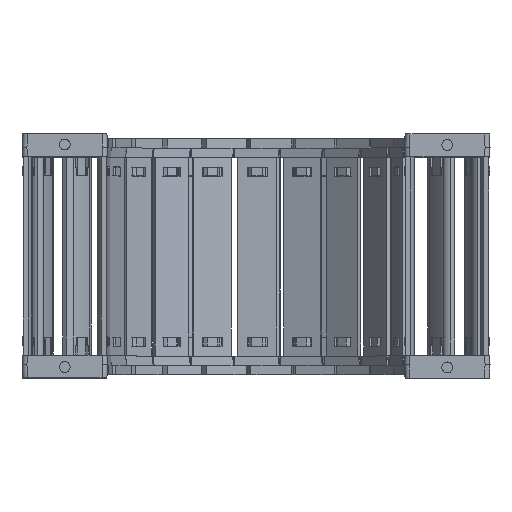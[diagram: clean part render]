
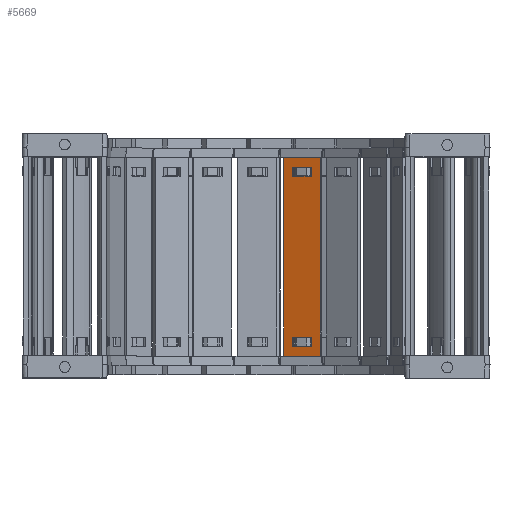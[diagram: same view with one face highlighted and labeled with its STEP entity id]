
A CAD part, top view. The second image highlights one B-rep face of the part: STEP entity #5669.
In plain terms, the highlighted planar face has unit normal (-0.342, 0, 0.94) as drawn and (0, 1, 0) by its records, which use the part's own axes.
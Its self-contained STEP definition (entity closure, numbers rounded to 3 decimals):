
#5089=DIRECTION('',(0.,0.,1.));
#5090=VECTOR('',#5089,15.8);
#5091=CARTESIAN_POINT('',(65.74,1.5,-7.9));
#5092=LINE('',#5091,#5090);
#5093=DIRECTION('',(-1.,0.,0.));
#5094=VECTOR('',#5093,80.5);
#5095=CARTESIAN_POINT('',(65.74,1.5,7.9));
#5096=LINE('',#5095,#5094);
#5097=DIRECTION('',(0.,0.,-1.));
#5098=VECTOR('',#5097,15.8);
#5099=CARTESIAN_POINT('',(-14.76,1.5,7.9));
#5100=LINE('',#5099,#5098);
#5101=DIRECTION('',(1.,0.,0.));
#5102=VECTOR('',#5101,3.648);
#5103=CARTESIAN_POINT('',(58.122,1.5,4.075));
#5104=LINE('',#5103,#5102);
#5105=DIRECTION('',(0.,0.,-1.));
#5106=VECTOR('',#5105,8.15);
#5107=CARTESIAN_POINT('',(61.77,1.5,4.075));
#5108=LINE('',#5107,#5106);
#5109=DIRECTION('',(-1.,0.,0.));
#5110=VECTOR('',#5109,3.648);
#5111=CARTESIAN_POINT('',(61.77,1.5,-4.075));
#5112=LINE('',#5111,#5110);
#5113=DIRECTION('',(0.,0.,-1.));
#5114=VECTOR('',#5113,8.15);
#5115=CARTESIAN_POINT('',(-7.142,1.5,4.075));
#5116=LINE('',#5115,#5114);
#5117=DIRECTION('',(-1.,0.,0.));
#5118=VECTOR('',#5117,3.648);
#5119=CARTESIAN_POINT('',(-7.142,1.5,-4.075));
#5120=LINE('',#5119,#5118);
#5121=DIRECTION('',(0.,0.,1.));
#5122=VECTOR('',#5121,8.15);
#5123=CARTESIAN_POINT('',(-10.79,1.5,-4.075));
#5124=LINE('',#5123,#5122);
#5125=DIRECTION('',(1.,0.,0.));
#5126=VECTOR('',#5125,3.648);
#5127=CARTESIAN_POINT('',(-10.79,1.5,4.075));
#5128=LINE('',#5127,#5126);
#5133=DIRECTION('',(-1.,0.,0.));
#5134=VECTOR('',#5133,80.5);
#5135=CARTESIAN_POINT('',(65.74,1.5,-7.9));
#5136=LINE('',#5135,#5134);
#5254=DIRECTION('',(0.,0.,-1.));
#5255=VECTOR('',#5254,8.15);
#5256=CARTESIAN_POINT('',(58.122,1.5,4.075));
#5257=LINE('',#5256,#5255);
#5439=CARTESIAN_POINT('',(61.77,1.5,4.075));
#5440=VERTEX_POINT('',#5439);
#5441=CARTESIAN_POINT('',(58.122,1.5,4.075));
#5442=VERTEX_POINT('',#5441);
#5483=CARTESIAN_POINT('',(58.122,1.5,-4.075));
#5484=VERTEX_POINT('',#5483);
#5485=CARTESIAN_POINT('',(61.77,1.5,-4.075));
#5486=VERTEX_POINT('',#5485);
#5487=CARTESIAN_POINT('',(65.74,1.5,7.9));
#5489=VERTEX_POINT('',#5487);
#5491=CARTESIAN_POINT('',(65.74,1.5,-7.9));
#5492=VERTEX_POINT('',#5491);
#5515=CARTESIAN_POINT('',(-7.142,1.5,4.075));
#5516=CARTESIAN_POINT('',(-7.142,1.5,-4.075));
#5517=VERTEX_POINT('',#5515);
#5518=VERTEX_POINT('',#5516);
#5519=CARTESIAN_POINT('',(-10.79,1.5,-4.075));
#5520=VERTEX_POINT('',#5519);
#5521=CARTESIAN_POINT('',(-10.79,1.5,4.075));
#5522=VERTEX_POINT('',#5521);
#5523=CARTESIAN_POINT('',(-14.76,1.5,7.9));
#5524=VERTEX_POINT('',#5523);
#5527=CARTESIAN_POINT('',(-14.76,1.5,-7.9));
#5528=VERTEX_POINT('',#5527);
#5638=CARTESIAN_POINT('',(97.48,1.5,10.061));
#5639=DIRECTION('',(0.,-1.,0.));
#5640=DIRECTION('',(0.,0.,-1.));
#5641=AXIS2_PLACEMENT_3D('',#5638,#5639,#5640);
#5642=PLANE('',#5641);
#5643=ORIENTED_EDGE('',*,*,#5577,.T.);
#5644=ORIENTED_EDGE('',*,*,#5603,.T.);
#5645=ORIENTED_EDGE('',*,*,#5616,.T.);
#5647=ORIENTED_EDGE('',*,*,#5646,.F.);
#5648=EDGE_LOOP('',(#5643,#5644,#5645,#5647));
#5649=FACE_OUTER_BOUND('',#5648,.F.);
#5651=ORIENTED_EDGE('',*,*,#5650,.F.);
#5652=ORIENTED_EDGE('',*,*,#5540,.T.);
#5654=ORIENTED_EDGE('',*,*,#5653,.T.);
#5656=ORIENTED_EDGE('',*,*,#5655,.T.);
#5657=EDGE_LOOP('',(#5651,#5652,#5654,#5656));
#5658=FACE_BOUND('',#5657,.F.);
#5660=ORIENTED_EDGE('',*,*,#5659,.T.);
#5662=ORIENTED_EDGE('',*,*,#5661,.T.);
#5664=ORIENTED_EDGE('',*,*,#5663,.T.);
#5666=ORIENTED_EDGE('',*,*,#5665,.T.);
#5667=EDGE_LOOP('',(#5660,#5662,#5664,#5666));
#5668=FACE_BOUND('',#5667,.F.);
#5669=ADVANCED_FACE('',(#5649,#5658,#5668),#5642,.F.);
#5540=EDGE_CURVE('',#5442,#5440,#5104,.T.);
#5577=EDGE_CURVE('',#5492,#5489,#5092,.T.);
#5603=EDGE_CURVE('',#5489,#5524,#5096,.T.);
#5616=EDGE_CURVE('',#5524,#5528,#5100,.T.);
#5646=EDGE_CURVE('',#5492,#5528,#5136,.T.);
#5650=EDGE_CURVE('',#5442,#5484,#5257,.T.);
#5653=EDGE_CURVE('',#5440,#5486,#5108,.T.);
#5655=EDGE_CURVE('',#5486,#5484,#5112,.T.);
#5659=EDGE_CURVE('',#5517,#5518,#5116,.T.);
#5661=EDGE_CURVE('',#5518,#5520,#5120,.T.);
#5663=EDGE_CURVE('',#5520,#5522,#5124,.T.);
#5665=EDGE_CURVE('',#5522,#5517,#5128,.T.);
